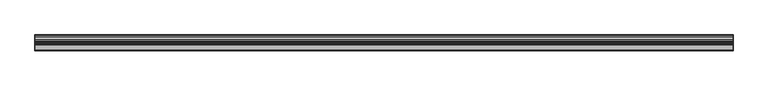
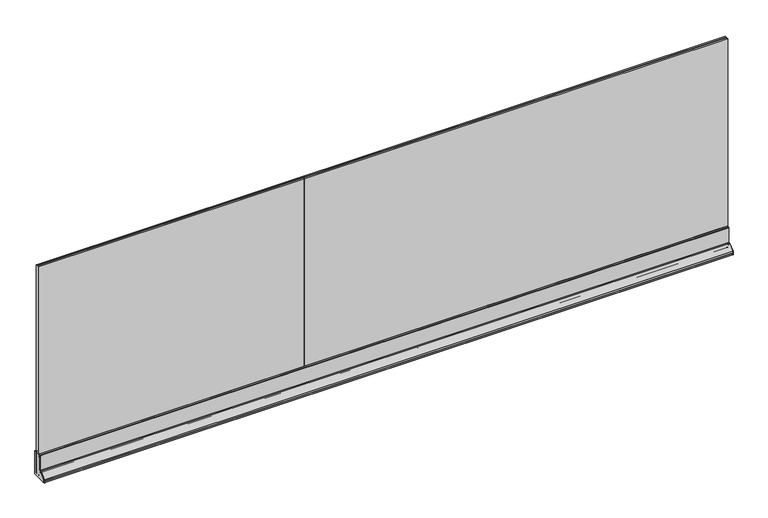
"""IFC4 building model written with IfcOpenShell, lengths in millimetres: railing geometry, Glass Rail EXL-12481 h=1100mm."""

from ifc_helpers import new_model, si_unit, point, frame, frame_2d, origin, place, context, project, spatial, polyline, circle_curve, trimmed, segment, composite_curve, outline, extrude, source, transform, mapped, element, save


def railing_0a93fae2(model_context):
    return source(origin(), model_context, "Body", "SweptSolid", [
        extrude(outline(composite_curve([segment(polyline([(13161.1856174, 4320.0), (13165.8856174, 4320.0)]), True, "CONTINUOUS"), segment(trimmed(circle_curve(frame_2d((13165.8856174, 4319.0)), 1.0), [point((13165.8856174, 4320.0))], [point((13166.8856174, 4319.0))], False, "CARTESIAN"), True, "CONTINUOUS"), segment(polyline([(13166.8856174, 4319.0), (13166.8856174, 4201.0)]), True, "CONTINUOUS"), segment(trimmed(circle_curve(frame_2d((13165.8856174, 4201.0)), 1.0), [point((13166.8856174, 4201.0))], [point((13165.8856174, 4200.0))], False, "CARTESIAN"), True, "CONTINUOUS"), segment(polyline([(13165.8856174, 4200.0), (13090.8856174, 4200.0)]), True, "CONTINUOUS"), segment(trimmed(circle_curve(frame_2d((13090.8856174, 4201.0)), 1.0), [point((13090.8856174, 4200.0))], [point((13089.8856174, 4201.0))], False, "CARTESIAN"), True, "CONTINUOUS"), segment(polyline([(13089.8856174, 4201.0), (13089.8856174, 4208.5), (13092.732717, 4208.5), (13095.7276918, 4211.4949747), (13099.9703325, 4211.4949747), (13097.8289111, 4209.3535534)]), True, "CONTINUOUS"), segment(trimmed(circle_curve(frame_2d((13098.1824645, 4209.0)), 0.5), [point((13097.8289111, 4209.3535534))], [point((13098.1824645, 4208.5))], True, "CARTESIAN"), True, "CONTINUOUS"), segment(polyline([(13098.1824645, 4208.5), (13123.8856174, 4208.5)]), True, "CONTINUOUS"), segment(trimmed(circle_curve(frame_2d((13123.8856174, 4209.5)), 1.0), [point((13123.8856174, 4208.5))], [point((13124.8856174, 4209.5))], True, "CARTESIAN"), True, "CONTINUOUS"), segment(polyline([(13124.8856174, 4209.5), (13124.8856174, 4235.2031529)]), True, "CONTINUOUS"), segment(trimmed(circle_curve(frame_2d((13124.3856174, 4235.2031529)), 0.5), [point((13124.8856174, 4235.2031529))], [point((13124.032064, 4235.5567063))], True, "CARTESIAN"), True, "CONTINUOUS"), segment(polyline([(13124.032064, 4235.5567063), (13121.8906427, 4233.415285), (13121.8906427, 4237.6579257), (13124.8856174, 4240.6529004), (13124.8856174, 4319.0)]), True, "CONTINUOUS"), segment(trimmed(circle_curve(frame_2d((13125.8856174, 4319.0)), 1.0), [point((13124.8856174, 4319.0))], [point((13125.8856174, 4320.0))], False, "CARTESIAN"), True, "CONTINUOUS"), segment(polyline([(13125.8856174, 4320.0), (13129.3856174, 4320.0)]), True, "CONTINUOUS"), segment(trimmed(circle_curve(frame_2d((13129.3856174, 4319.5)), 0.5), [point((13129.3856174, 4320.0))], [point((13129.3856174, 4319.0))], False, "CARTESIAN"), True, "CONTINUOUS"), segment(polyline([(13129.3856174, 4319.0), (13133.3856174, 4230.0), (13133.3856174, 4211.0)]), True, "CONTINUOUS"), segment(trimmed(circle_curve(frame_2d((13134.3856174, 4211.0)), 1.0), [point((13133.3856174, 4211.0))], [point((13134.3856174, 4210.0))], True, "CARTESIAN"), True, "CONTINUOUS"), segment(polyline([(13134.3856174, 4210.0), (13157.3856174, 4210.0)]), True, "CONTINUOUS"), segment(trimmed(circle_curve(frame_2d((13157.3856174, 4211.0)), 1.0), [point((13157.3856174, 4210.0))], [point((13158.3856174, 4211.0))], True, "CARTESIAN"), True, "CONTINUOUS"), segment(polyline([(13158.3856174, 4211.0), (13158.3856174, 4276.5), (13162.1856174, 4299.4226497), (13161.1856174, 4300.0), (13161.1856174, 4319.0)]), True, "CONTINUOUS"), segment(trimmed(circle_curve(frame_2d((13161.1856174, 4319.5)), 0.5), [point((13161.1856174, 4319.0))], [point((13161.1856174, 4320.0))], False, "CARTESIAN"), True, "CONTINUOUS")], self_intersect=False)), frame((13343.1337784, 0.0, 0.0), z_axis=(1.0, 0.0, 0.0), x_axis=(0.0, 1.0, 0.0)), (0.0, 0.0, 1.0), 3400.0),
        extrude(outline(composite_curve([segment(polyline([(13123.0489255, 4232.1155808), (13115.2000402, 4239.9644661), (13093.4211513, 4218.1855772), (13101.2700366, 4210.336692)]), True, "CONTINUOUS"), segment(trimmed(circle_curve(frame_2d((13101.0579046, 4210.1245599)), 0.3), [point((13101.2700366, 4210.336692))], [point((13100.9802588, 4209.8347822))], False, "CARTESIAN"), True, "CONTINUOUS"), segment(polyline([(13100.9802588, 4209.8347822), (13100.1298725, 4210.0626425), (13092.7140445, 4217.4784705), (13091.4856174, 4216.2500433), (13091.4856174, 4208.712785), (13089.8856174, 4208.712785), (13089.8856174, 4216.912785), (13116.4728324, 4243.5), (13124.6728324, 4243.5), (13124.6728324, 4241.9), (13117.1355741, 4241.9), (13115.907147, 4240.6715729), (13123.3229749, 4233.2557449), (13123.5508352, 4232.4053586)]), True, "CONTINUOUS"), segment(trimmed(circle_curve(frame_2d((13123.2610575, 4232.3277129)), 0.3), [point((13123.5508352, 4232.4053586))], [point((13123.0489255, 4232.1155808))], False, "CARTESIAN"), True, "CONTINUOUS")], self_intersect=False)), frame((13343.1337784, 0.0, 0.0), z_axis=(1.0, 0.0, 0.0), x_axis=(0.0, 1.0, 0.0)), (0.0, 0.0, 1.0), 3400.0),
        extrude(outline(composite_curve([segment(polyline([(13160.6158265, 4319.85), (13160.6158265, 4319.0), (13161.1856174, 4318.4302091), (13161.1856174, 4300.0), (13162.1856174, 4299.4226497), (13158.3856174, 4276.5), (13158.3856174, 4211.0)]), True, "CONTINUOUS"), segment(trimmed(circle_curve(frame_2d((13157.3856174, 4211.0)), 1.0), [point((13158.3856174, 4211.0))], [point((13157.3856174, 4210.0))], False, "CARTESIAN"), True, "CONTINUOUS"), segment(polyline([(13157.3856174, 4210.0), (13136.2856174, 4210.0)]), True, "CONTINUOUS"), segment(trimmed(circle_curve(frame_2d((13136.2856174, 4211.0)), 1.0), [point((13136.2856174, 4210.0))], [point((13135.2856174, 4211.0))], False, "CARTESIAN"), True, "CONTINUOUS"), segment(polyline([(13135.2856174, 4211.0), (13135.2856174, 4212.0)]), True, "CONTINUOUS"), segment(trimmed(circle_curve(frame_2d((13136.2856174, 4212.0)), 1.0), [point((13135.2856174, 4212.0))], [point((13136.2856174, 4213.0))], False, "CARTESIAN"), True, "CONTINUOUS"), segment(polyline([(13136.2856174, 4213.0), (13155.2856174, 4213.0), (13155.2856174, 4321.6016227), (13154.1052667, 4322.5140821)]), True, "CONTINUOUS"), segment(trimmed(circle_curve(frame_2d((13154.3413836, 4322.7475881)), 0.3320787), [point((13154.1052667, 4322.5140821))], [point((13154.4753099, 4323.0514631))], False, "CARTESIAN"), True, "CONTINUOUS"), segment(trimmed(circle_curve(frame_2d((13158.0787279, 4330.9804663)), 8.7094037), [point((13154.4753099, 4323.0514631))], [point((13155.5316435, 4322.6518365))], True, "CARTESIAN"), True, "CONTINUOUS"), segment(trimmed(circle_curve(frame_2d((13172.3388035, 4396.1944554)), 75.4386998), [point((13155.5316435, 4322.6518365))], [point((13162.493653, 4321.4009367))], True, "CARTESIAN"), True, "CONTINUOUS"), segment(trimmed(circle_curve(frame_2d((13162.4174047, 4320.8216792)), 0.5842544), [point((13162.493653, 4321.4009367))], [point((13162.3660524, 4320.239686))], False, "CARTESIAN"), True, "CONTINUOUS"), segment(polyline([(13162.3660524, 4320.239686), (13161.1158265, 4320.35)]), True, "CONTINUOUS"), segment(trimmed(circle_curve(frame_2d((13161.1158265, 4319.85)), 0.5), [point((13161.1158265, 4320.35))], [point((13160.6158265, 4319.85))], True, "CARTESIAN"), True, "CONTINUOUS")], self_intersect=False)), frame((13343.1337784, 0.0, 0.0), z_axis=(1.0, 0.0, 0.0), x_axis=(0.0, 1.0, 0.0)), (0.0, 0.0, 1.0), 3400.0),
        extrude(outline(composite_curve([segment(polyline([(13132.781236, 4307.0372817), (13130.880559, 4307.0372817), (13129.5357688, 4310.3051746), (13129.5357688, 4318.2932925), (13130.1055597, 4318.8630833), (13130.1055597, 4319.65)]), True, "CONTINUOUS"), segment(trimmed(circle_curve(frame_2d((13129.6055597, 4319.65)), 0.5), [point((13130.1055597, 4319.65))], [point((13129.6055597, 4320.15))], True, "CARTESIAN"), True, "CONTINUOUS"), segment(polyline([(13129.6055597, 4320.15), (13128.2667822, 4320.0318726)]), True, "CONTINUOUS"), segment(trimmed(circle_curve(frame_2d((13128.2156084, 4320.6118425)), 0.5822232), [point((13128.2667822, 4320.0318726))], [point((13128.1302905, 4321.1877806))], False, "CARTESIAN"), True, "CONTINUOUS"), segment(trimmed(circle_curve(frame_2d((13119.5169688, 4379.3319631)), 58.7786974), [point((13128.1302905, 4321.1877806))], [point((13134.3354191, 4322.4518365))], True, "CARTESIAN"), True, "CONTINUOUS"), segment(trimmed(circle_curve(frame_2d((13131.7883347, 4330.7804663)), 8.7094037), [point((13134.3354191, 4322.4518365))], [point((13135.3917526, 4322.8514631))], True, "CARTESIAN"), True, "CONTINUOUS"), segment(trimmed(circle_curve(frame_2d((13135.5256789, 4322.5475881)), 0.3320787), [point((13135.3917526, 4322.8514631))], [point((13135.7617958, 4322.3140821))], False, "CARTESIAN"), True, "CONTINUOUS"), segment(polyline([(13135.7617958, 4322.3140821), (13134.6540861, 4321.4577771)]), True, "CONTINUOUS"), segment(trimmed(circle_curve(frame_2d((13135.3654279, 4320.7517158)), 1.0022624), [point((13134.6540861, 4321.4577771))], [point((13134.5111293, 4320.227594))], True, "CARTESIAN"), True, "CONTINUOUS"), segment(polyline([(13134.5111293, 4320.227594), (13135.3786124, 4319.2972925), (13134.1776826, 4318.0963627), (13135.3847894, 4316.8892559), (13134.1776826, 4315.6821491), (13135.3847894, 4314.4750423), (13134.1947119, 4313.2849649), (13135.2037234, 4312.0608288), (13134.281236, 4310.9416639), (13134.281236, 4308.5372817)]), True, "CONTINUOUS"), segment(trimmed(circle_curve(frame_2d((13132.781236, 4308.5372817)), 1.5), [point((13134.281236, 4308.5372817))], [point((13132.781236, 4307.0372817))], False, "CARTESIAN"), True, "CONTINUOUS")], self_intersect=False)), frame((13343.1337784, 0.0, 0.0), z_axis=(1.0, 0.0, 0.0), x_axis=(0.0, 1.0, 0.0)), (0.0, 0.0, 1.0), 3400.0),
        extrude(outline(composite_curve([segment(polyline([(13135.0738668, 4289.5), (13135.0738668, 4225.4997789)]), True, "CONTINUOUS"), segment(trimmed(circle_curve(frame_2d((13134.5738668, 4225.4997789)), 0.5), [point((13135.0738668, 4225.4997789))], [point((13134.5738668, 4224.9997789))], False, "CARTESIAN"), True, "CONTINUOUS"), segment(polyline([(13134.5738668, 4224.9997789), (13133.6103465, 4224.9997789), (13130.7124691, 4289.4775508)]), True, "CONTINUOUS"), segment(trimmed(circle_curve(frame_2d((13131.2119648, 4289.5)), 0.5), [point((13130.7124691, 4289.4775508))], [point((13131.2119648, 4290.0))], False, "CARTESIAN"), True, "CONTINUOUS"), segment(polyline([(13131.2119648, 4290.0), (13134.5738668, 4290.0)]), True, "CONTINUOUS"), segment(trimmed(circle_curve(frame_2d((13134.5738668, 4289.5)), 0.5), [point((13134.5738668, 4290.0))], [point((13135.0738668, 4289.5))], False, "CARTESIAN"), True, "CONTINUOUS")], self_intersect=False)), frame((13343.1337784, 0.0, 0.0), z_axis=(1.0, 0.0, 0.0), x_axis=(0.0, 1.0, 0.0)), (0.0, 0.0, 1.0), 3400.0),
        extrude(outline(polyline([(13134.5356174, 4213.890625), (13134.5356174, 5299.109375), (13135.4262424, 5300.0), (13143.4993674, 5300.0), (13144.3899924, 5299.109375), (13145.4412424, 5299.109375), (13146.3318674, 5300.0), (13154.4049924, 5300.0), (13155.2956174, 5299.109375), (13155.2956174, 4213.890625), (13154.4049924, 4213.0), (13146.3318674, 4213.0), (13145.4412424, 4213.890625), (13144.3899924, 4213.890625), (13143.4993674, 4213.0), (13135.4262424, 4213.0), (13134.5356174, 4213.890625)])), frame((13343.1337784, 0.0, 0.0), z_axis=(1.0, 0.0, 0.0), x_axis=(0.0, 1.0, 0.0)), (0.0, 0.0, 1.0), 3400.0),
        extrude(outline(polyline([(13146.3018674, 5300.0), (13145.4112424, 5299.109375), (13144.3599924, 5299.109375), (13143.4693674, 5300.0), (13146.3018674, 5300.0)])), frame((13343.1337784, 0.0, 0.0), z_axis=(1.0, 0.0, 0.0), x_axis=(0.0, 1.0, 0.0)), (0.0, 0.0, 1.0), 3400.0),
        extrude(outline(polyline([(13134.5356174, 4213.8909545), (13134.5356174, 5299.1090455), (13135.426572, 5300.0), (13154.4046629, 5300.0), (13155.2956174, 5299.1090455), (13155.2956174, 4213.8909545), (13154.4046629, 4213.0), (13135.426572, 4213.0), (13134.5356174, 4213.8909545)])), frame((14652.6546701, 0.0, 0.0), z_axis=(1.0, 0.0, 0.0), x_axis=(0.0, 1.0, 0.0)), (0.0, 0.0, 1.0), 0.9582165),
        extrude(outline(composite_curve([segment(polyline([(13124.8856174, 4243.5), (13124.8856174, 4319.0)]), True, "CONTINUOUS"), segment(trimmed(circle_curve(frame_2d((13125.8856174, 4319.0)), 1.0), [point((13124.8856174, 4319.0))], [point((13125.8856174, 4320.0))], False, "CARTESIAN"), True, "CONTINUOUS"), segment(polyline([(13125.8856174, 4320.0), (13165.8856174, 4320.0)]), True, "CONTINUOUS"), segment(trimmed(circle_curve(frame_2d((13165.8856174, 4319.0)), 1.0), [point((13165.8856174, 4320.0))], [point((13166.8856174, 4319.0))], False, "CARTESIAN"), True, "CONTINUOUS"), segment(polyline([(13166.8856174, 4319.0), (13166.8856174, 4201.0)]), True, "CONTINUOUS"), segment(trimmed(circle_curve(frame_2d((13165.8856174, 4201.0)), 1.0), [point((13166.8856174, 4201.0))], [point((13165.8856174, 4200.0))], False, "CARTESIAN"), True, "CONTINUOUS"), segment(polyline([(13165.8856174, 4200.0), (13089.8856174, 4200.0), (13089.8856174, 4216.91), (13116.4756174, 4243.5), (13124.8856174, 4243.5)]), True, "CONTINUOUS")], self_intersect=False)), frame((13342.1337784, 0.0, 0.0), z_axis=(1.0, 0.0, 0.0), x_axis=(0.0, 1.0, 0.0)), (0.0, 0.0, 1.0), 1.0),
        extrude(outline(composite_curve([segment(polyline([(13124.8856174, 4243.5), (13124.8856174, 4319.0)]), True, "CONTINUOUS"), segment(trimmed(circle_curve(frame_2d((13125.8856174, 4319.0)), 1.0), [point((13124.8856174, 4319.0))], [point((13125.8856174, 4320.0))], False, "CARTESIAN"), True, "CONTINUOUS"), segment(polyline([(13125.8856174, 4320.0), (13165.8856174, 4320.0)]), True, "CONTINUOUS"), segment(trimmed(circle_curve(frame_2d((13165.8856174, 4319.0)), 1.0), [point((13165.8856174, 4320.0))], [point((13166.8856174, 4319.0))], False, "CARTESIAN"), True, "CONTINUOUS"), segment(polyline([(13166.8856174, 4319.0), (13166.8856174, 4201.0)]), True, "CONTINUOUS"), segment(trimmed(circle_curve(frame_2d((13165.8856174, 4201.0)), 1.0), [point((13166.8856174, 4201.0))], [point((13165.8856174, 4200.0))], False, "CARTESIAN"), True, "CONTINUOUS"), segment(polyline([(13165.8856174, 4200.0), (13089.8856174, 4200.0), (13089.8856174, 4216.91), (13116.4756174, 4243.5), (13124.8856174, 4243.5)]), True, "CONTINUOUS")], self_intersect=False)), frame((16743.1337784, 0.0, 0.0), z_axis=(1.0, 0.0, 0.0), x_axis=(0.0, 1.0, 0.0)), (0.0, 0.0, 1.0), 1.0),
    ])


if __name__ == "__main__":
    model = new_model("IFC4")
    model_context = context("Model", 3, world=origin())
    ifc_project = project(units=[si_unit("LENGTHUNIT", "METRE", prefix="MILLI")], contexts=[model_context])
    site = spatial("IfcSite", under=ifc_project)
    building = spatial("IfcBuilding", under=site)
    placement = place(None, origin())
    railing_shape = railing_0a93fae2(model_context)
    element("IfcRailing", 1, ObjectType="Glass Rail EXL-12481 h=1100mm", at=placement, inside=building, context=model_context, shape_type="MappedRepresentation", body=[
        mapped(railing_shape, transform((0.0, 0.0, 0.0), x_axis=(1.0, 0.0, 0.0), y_axis=(0.0, 1.0, 0.0), z_axis=(0.0, 0.0, 1.0))),
    ])
    save(model, "model.ifc")
